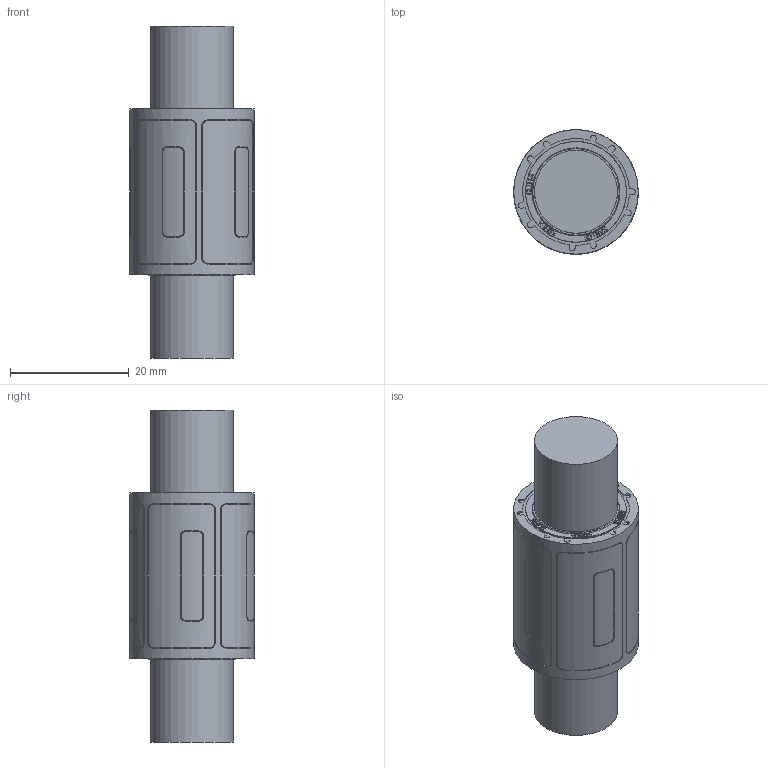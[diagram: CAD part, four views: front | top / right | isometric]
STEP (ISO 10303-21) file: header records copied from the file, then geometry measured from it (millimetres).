
FILE_DESCRIPTION((''),'2;1');
FILE_NAME('D:\STEP\CLB\UU\CLB 14 UU.stp','2013-02-18T09:27:32',('user2'),(''),'Autodesk Inventor 2012','Autodesk Inventor 2012','');
FILE_SCHEMA(('AUTOMOTIVE_DESIGN { 1 0 10303 214 1 1 1 1 }'));
Length unit declared in the file: millimetre
Products named in the file (1): CLB 14 UU
Bounding box: 21 x 21 x 56 mm (x, y, z)
Volume: 13845.7 mm3; surface area: 6449.4 mm2
Topology: 1 solids, 1 shells, 1049 faces, 2924 edges, 1950 vertices
Faces by surface type: bspline 552, plane 360, cylinder 135, cone 2
Full cylindrical faces by diameter (mm): 14 x2, 17 x2, 21 x1
Entity records: 35304 total; most frequent: CARTESIAN_POINT 12148, ORIENTED_EDGE 5824, DIRECTION 2938, EDGE_CURVE 2912, VERTEX_POINT 1946, VECTOR 1514, LINE 1514, EDGE_LOOP 1130
